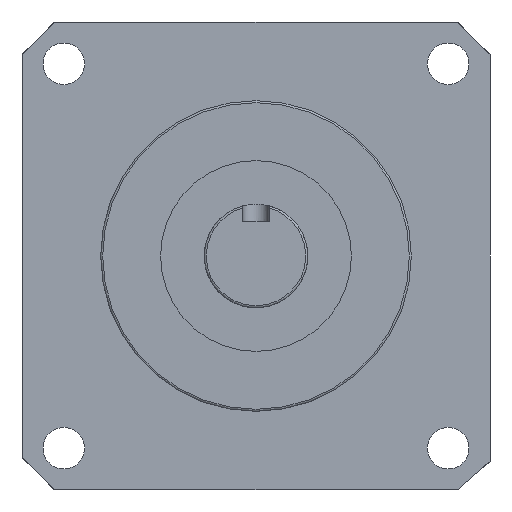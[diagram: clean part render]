
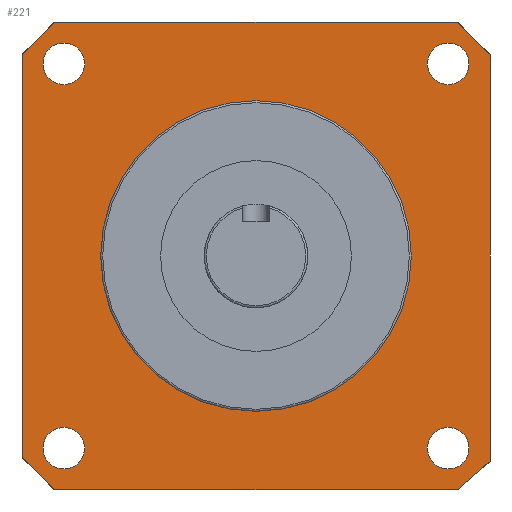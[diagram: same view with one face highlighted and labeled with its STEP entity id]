
A CAD part, front view. The second image highlights one B-rep face of the part: STEP entity #221.
In plain terms, the highlighted planar face has unit normal (0, -1, 0).
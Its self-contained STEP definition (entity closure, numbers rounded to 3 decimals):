
#221 = ADVANCED_FACE( '', ( #486, #487, #488, #489, #490, #491 ), #492, .T. );
#486 = FACE_BOUND( '', #864, .T. );
#487 = FACE_BOUND( '', #865, .T. );
#488 = FACE_OUTER_BOUND( '', #866, .T. );
#489 = FACE_BOUND( '', #867, .T. );
#490 = FACE_BOUND( '', #868, .T. );
#491 = FACE_BOUND( '', #869, .T. );
#492 = PLANE( '', #870 );
#864 = EDGE_LOOP( '', ( #1359 ) );
#865 = EDGE_LOOP( '', ( #1360 ) );
#866 = EDGE_LOOP( '', ( #1361, #1362, #1363, #1364, #1365, #1366, #1367, #1368 ) );
#867 = EDGE_LOOP( '', ( #1369 ) );
#868 = EDGE_LOOP( '', ( #1370 ) );
#869 = EDGE_LOOP( '', ( #1371 ) );
#870 = AXIS2_PLACEMENT_3D( '', #1372, #1373, #1374 );
#1359 = ORIENTED_EDGE( '', *, *, #1999, .T. );
#1360 = ORIENTED_EDGE( '', *, *, #2000, .T. );
#1361 = ORIENTED_EDGE( '', *, *, #1965, .T. );
#1362 = ORIENTED_EDGE( '', *, *, #1927, .T. );
#1363 = ORIENTED_EDGE( '', *, *, #2001, .T. );
#1364 = ORIENTED_EDGE( '', *, *, #2002, .T. );
#1365 = ORIENTED_EDGE( '', *, *, #1878, .T. );
#1366 = ORIENTED_EDGE( '', *, *, #1912, .F. );
#1367 = ORIENTED_EDGE( '', *, *, #2003, .T. );
#1368 = ORIENTED_EDGE( '', *, *, #2004, .F. );
#1369 = ORIENTED_EDGE( '', *, *, #2005, .F. );
#1370 = ORIENTED_EDGE( '', *, *, #2006, .T. );
#1371 = ORIENTED_EDGE( '', *, *, #2007, .T. );
#1372 = CARTESIAN_POINT( '', ( 28.704, -84.6, 28.675 ) );
#1373 = DIRECTION( '', ( 0., -1., 0. ) );
#1374 = DIRECTION( '', ( 0., 0., -1. ) );
#1878 = EDGE_CURVE( '', #2160, #2161, #2162, .T. );
#1912 = EDGE_CURVE( '', #2220, #2161, #2222, .T. );
#1927 = EDGE_CURVE( '', #2248, #2246, #2249, .T. );
#1965 = EDGE_CURVE( '', #2308, #2248, #2309, .T. );
#1999 = EDGE_CURVE( '', #2362, #2362, #2363, .T. );
#2000 = EDGE_CURVE( '', #2364, #2364, #2365, .T. );
#2001 = EDGE_CURVE( '', #2246, #2366, #2367, .T. );
#2002 = EDGE_CURVE( '', #2366, #2160, #2368, .T. );
#2003 = EDGE_CURVE( '', #2220, #2369, #2370, .T. );
#2004 = EDGE_CURVE( '', #2308, #2369, #2371, .T. );
#2005 = EDGE_CURVE( '', #2372, #2372, #2373, .T. );
#2006 = EDGE_CURVE( '', #2374, #2374, #2375, .T. );
#2007 = EDGE_CURVE( '', #2376, #2376, #2377, .T. );
#2160 = VERTEX_POINT( '', #2616 );
#2161 = VERTEX_POINT( '', #2617 );
#2162 = LINE( '', #2618, #2619 );
#2220 = VERTEX_POINT( '', #2702 );
#2222 = LINE( '', #2705, #2706 );
#2246 = VERTEX_POINT( '', #2740 );
#2248 = VERTEX_POINT( '', #2743 );
#2249 = LINE( '', #2744, #2745 );
#2308 = VERTEX_POINT( '', #2911 );
#2309 = LINE( '', #2912, #2913 );
#2362 = VERTEX_POINT( '', #2982 );
#2363 = CIRCLE( '', #2983, 2.55 );
#2364 = VERTEX_POINT( '', #2984 );
#2365 = CIRCLE( '', #2985, 2.55 );
#2366 = VERTEX_POINT( '', #2986 );
#2367 = LINE( '', #2987, #2988 );
#2368 = LINE( '', #2989, #2990 );
#2369 = VERTEX_POINT( '', #2991 );
#2370 = LINE( '', #2992, #2993 );
#2371 = LINE( '', #2994, #2995 );
#2372 = VERTEX_POINT( '', #2996 );
#2373 = CIRCLE( '', #2997, 19.05 );
#2374 = VERTEX_POINT( '', #2998 );
#2375 = CIRCLE( '', #2999, 2.55 );
#2376 = VERTEX_POINT( '', #3000 );
#2377 = CIRCLE( '', #3001, 2.55 );
#2616 = CARTESIAN_POINT( '', ( 28.704, -84.6, -25.217 ) );
#2617 = CARTESIAN_POINT( '', ( 28.704, -84.6, 24.675 ) );
#2618 = CARTESIAN_POINT( '', ( 28.704, -84.6, -28.725 ) );
#2619 = VECTOR( '', #3308, 1000. );
#2702 = CARTESIAN_POINT( '', ( 24.704, -84.6, 28.675 ) );
#2705 = CARTESIAN_POINT( '', ( 24.704, -84.6, 28.675 ) );
#2706 = VECTOR( '', #3349, 1000. );
#2740 = CARTESIAN_POINT( '', ( -24.696, -84.6, -28.725 ) );
#2743 = CARTESIAN_POINT( '', ( -28.696, -84.6, -24.725 ) );
#2744 = CARTESIAN_POINT( '', ( -28.696, -84.6, -24.725 ) );
#2745 = VECTOR( '', #3361, 1000. );
#2911 = CARTESIAN_POINT( '', ( -28.696, -84.6, 24.675 ) );
#2912 = CARTESIAN_POINT( '', ( -28.696, -84.6, 28.675 ) );
#2913 = VECTOR( '', #3408, 1000. );
#2982 = CARTESIAN_POINT( '', ( -21.018, -84.6, -23.596 ) );
#2983 = AXIS2_PLACEMENT_3D( '', #3452, #3453, #3454 );
#2984 = CARTESIAN_POINT( '', ( 26.125, -84.6, 23.547 ) );
#2985 = AXIS2_PLACEMENT_3D( '', #3455, #3456, #3457 );
#2986 = CARTESIAN_POINT( '', ( 24.704, -84.6, -28.725 ) );
#2987 = CARTESIAN_POINT( '', ( -28.696, -84.6, -28.725 ) );
#2988 = VECTOR( '', #3458, 1000. );
#2989 = CARTESIAN_POINT( '', ( 24.704, -84.6, -28.725 ) );
#2990 = VECTOR( '', #3459, 1000. );
#2991 = CARTESIAN_POINT( '', ( -24.696, -84.6, 28.675 ) );
#2992 = CARTESIAN_POINT( '', ( 28.704, -84.6, 28.675 ) );
#2993 = VECTOR( '', #3460, 1000. );
#2994 = CARTESIAN_POINT( '', ( -28.696, -84.6, 24.675 ) );
#2995 = VECTOR( '', #3461, 1000. );
#2996 = CARTESIAN_POINT( '', ( 0.004, -84.6, -19.075 ) );
#2997 = AXIS2_PLACEMENT_3D( '', #3462, #3463, #3464 );
#2998 = CARTESIAN_POINT( '', ( -21.018, -84.6, 23.547 ) );
#2999 = AXIS2_PLACEMENT_3D( '', #3465, #3466, #3467 );
#3000 = CARTESIAN_POINT( '', ( 26.125, -84.6, -23.596 ) );
#3001 = AXIS2_PLACEMENT_3D( '', #3468, #3469, #3470 );
#3308 = DIRECTION( '', ( 0., 0., 1. ) );
#3349 = DIRECTION( '', ( 0.707, 0., -0.707 ) );
#3361 = DIRECTION( '', ( 0.707, 0., -0.707 ) );
#3408 = DIRECTION( '', ( 0., 0., -1. ) );
#3452 = CARTESIAN_POINT( '', ( -23.568, -84.6, -23.596 ) );
#3453 = DIRECTION( '', ( 0., 1., 0. ) );
#3454 = DIRECTION( '', ( 1., 0., 0. ) );
#3455 = CARTESIAN_POINT( '', ( 23.575, -84.6, 23.547 ) );
#3456 = DIRECTION( '', ( 0., 1., 0. ) );
#3457 = DIRECTION( '', ( 1., 0., 0. ) );
#3458 = DIRECTION( '', ( 1., 0., 0. ) );
#3459 = DIRECTION( '', ( 0.752, 0., 0.659 ) );
#3460 = DIRECTION( '', ( -1., 0., 0. ) );
#3461 = DIRECTION( '', ( 0.707, 0., 0.707 ) );
#3462 = CARTESIAN_POINT( '', ( 0.004, -84.6, -0.025 ) );
#3463 = DIRECTION( '', ( 0., -1., 0. ) );
#3464 = DIRECTION( '', ( 0., 0., -1. ) );
#3465 = CARTESIAN_POINT( '', ( -23.568, -84.6, 23.547 ) );
#3466 = DIRECTION( '', ( 0., 1., 0. ) );
#3467 = DIRECTION( '', ( 1., 0., 0. ) );
#3468 = CARTESIAN_POINT( '', ( 23.575, -84.6, -23.596 ) );
#3469 = DIRECTION( '', ( 0., 1., 0. ) );
#3470 = DIRECTION( '', ( 1., 0., 0. ) );
